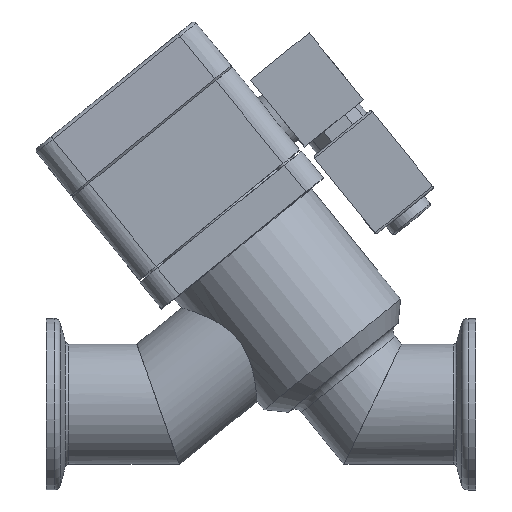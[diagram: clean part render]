
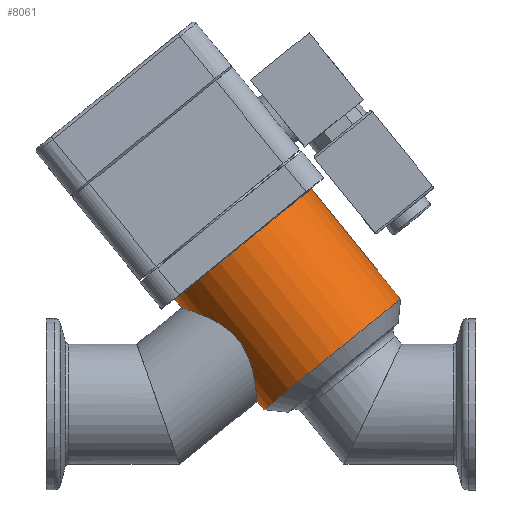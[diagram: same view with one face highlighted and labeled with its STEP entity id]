
A CAD part, top view. The second image highlights one B-rep face of the part: STEP entity #8061.
In plain terms, the highlighted cylindrical face has radius 20.45 mm (diameter 40.9 mm), a full revolution.
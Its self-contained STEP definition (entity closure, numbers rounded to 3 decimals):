
#2507=B_SPLINE_CURVE_WITH_KNOTS('',3,(#25120,#25121,#25122,#25123,#25124,
#25125,#25126,#25127,#25128,#25129,#25130,#25131,#25132,#25133,#25134,#25135,
#25136,#25137,#25138,#25139,#25140,#25141),.UNSPECIFIED.,.T.,.F.,(2,2,2,
2,2,2,2,2,2,2,2,2,2),(-0.062,0.,0.125,0.25,0.313,0.375,0.5,
0.625,0.75,0.875,0.938,1.,1.125),.UNSPECIFIED.);
#6797=CYLINDRICAL_SURFACE('',#17196,20.45);
#7347=FACE_BOUND('',#9831,.T.);
#7348=FACE_BOUND('',#9832,.T.);
#7349=FACE_BOUND('',#9833,.T.);
#8061=ADVANCED_FACE('',(#7347,#7348,#7349),#6797,.T.);
#9831=EDGE_LOOP('',(#12775));
#9832=EDGE_LOOP('',(#12776));
#9833=EDGE_LOOP('',(#12777));
#12775=ORIENTED_EDGE('',*,*,#15508,.F.);
#12776=ORIENTED_EDGE('',*,*,#15509,.T.);
#12777=ORIENTED_EDGE('',*,*,#15510,.F.);
#14002=VERTEX_POINT('',#25117);
#14003=VERTEX_POINT('',#25119);
#14004=VERTEX_POINT('',#25142);
#15508=EDGE_CURVE('',#14002,#14002,#16070,.T.);
#15509=EDGE_CURVE('',#14003,#14003,#16071,.T.);
#15510=EDGE_CURVE('',#14004,#14004,#2507,.T.);
#16070=CIRCLE('',#17194,20.45);
#16071=CIRCLE('',#17195,20.45);
#17194=AXIS2_PLACEMENT_3D('',#25116,#20339,#20340);
#17195=AXIS2_PLACEMENT_3D('',#25118,#20341,#20342);
#17196=AXIS2_PLACEMENT_3D('',#25143,#20343,#20344);
#20339=DIRECTION('',(-1.,0.,0.));
#20340=DIRECTION('',(0.,0.,1.));
#20341=DIRECTION('',(-1.,0.,0.));
#20342=DIRECTION('',(0.,0.,1.));
#20343=DIRECTION('',(-1.,0.,0.));
#20344=DIRECTION('',(0.,0.,1.));
#25116=CARTESIAN_POINT('',(21.6,0.,0.));
#25117=CARTESIAN_POINT('',(21.6,0.,20.45));
#25118=CARTESIAN_POINT('',(54.6,0.,0.));
#25119=CARTESIAN_POINT('',(54.6,0.,20.45));
#25120=CARTESIAN_POINT('',(39.799,16.185,-12.5));
#25121=CARTESIAN_POINT('',(34.702,16.185,-12.5));
#25122=CARTESIAN_POINT('',(31.539,17.352,-11.103));
#25123=CARTESIAN_POINT('',(27.037,19.505,-6.628));
#25124=CARTESIAN_POINT('',(25.614,20.442,-3.422));
#25125=CARTESIAN_POINT('',(25.593,20.454,1.637));
#25126=CARTESIAN_POINT('',(25.937,20.239,3.317));
#25127=CARTESIAN_POINT('',(27.206,19.503,6.346));
#25128=CARTESIAN_POINT('',(28.128,18.985,7.703));
#25129=CARTESIAN_POINT('',(31.493,17.371,11.076));
#25130=CARTESIAN_POINT('',(34.651,16.196,12.486));
#25131=CARTESIAN_POINT('',(41.448,16.174,12.514));
#25132=CARTESIAN_POINT('',(44.628,17.338,11.128));
#25133=CARTESIAN_POINT('',(49.165,19.504,6.634));
#25134=CARTESIAN_POINT('',(50.588,20.442,3.437));
#25135=CARTESIAN_POINT('',(50.612,20.458,-3.346));
#25136=CARTESIAN_POINT('',(49.196,19.523,-6.582));
#25137=CARTESIAN_POINT('',(45.81,17.9,-9.967));
#25138=CARTESIAN_POINT('',(44.479,17.337,-10.873));
#25139=CARTESIAN_POINT('',(41.472,16.47,-12.147));
#25140=CARTESIAN_POINT('',(39.799,16.185,-12.5));
#25141=CARTESIAN_POINT('',(34.702,16.185,-12.5));
#25142=CARTESIAN_POINT('',(38.1,16.185,-12.5));
#25143=CARTESIAN_POINT('',(0.,0.,0.));
